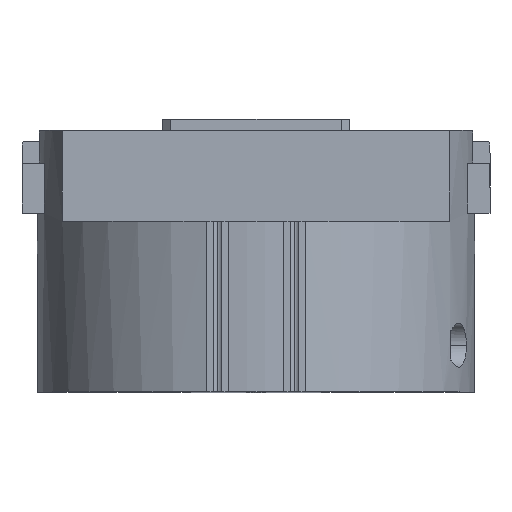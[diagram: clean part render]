
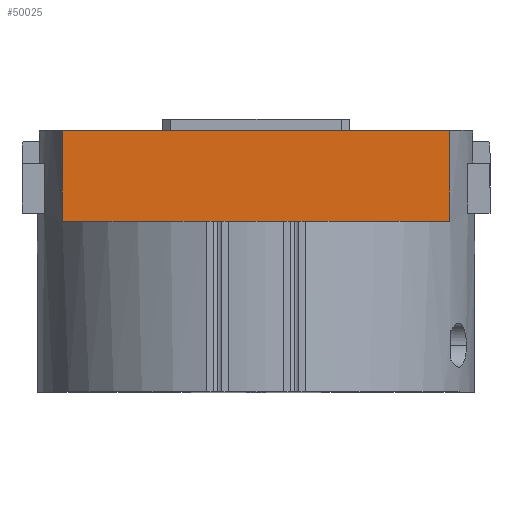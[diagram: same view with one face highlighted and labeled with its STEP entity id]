
A CAD part, top view. The second image highlights one B-rep face of the part: STEP entity #50025.
In plain terms, the highlighted planar face has unit normal (0, 0, 1).
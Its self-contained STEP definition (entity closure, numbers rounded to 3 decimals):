
#5178 = AXIS2_PLACEMENT_3D ( 'NONE', #10931, #33045, #92315 ) ;
#6786 = PLANE ( 'NONE',  #5178 ) ;
#6804 = LINE ( 'NONE', #36291, #39987 ) ;
#8739 = ORIENTED_EDGE ( 'NONE', *, *, #80371, .F. ) ;
#9658 = VERTEX_POINT ( 'NONE', #55431 ) ;
#10931 = CARTESIAN_POINT ( 'NONE',  ( -70.365, 62., 37. ) ) ;
#15722 = LINE ( 'NONE', #88082, #105835 ) ;
#17289 = VERTEX_POINT ( 'NONE', #101143 ) ;
#22342 = DIRECTION ( 'NONE',  ( 1., 0., 0. ) ) ;
#30303 = EDGE_CURVE ( 'NONE', #9658, #17289, #15722, .T. ) ;
#30475 = CARTESIAN_POINT ( 'NONE',  ( 0., 95., 37. ) ) ;
#33045 = DIRECTION ( 'NONE',  ( 0., 0., -1. ) ) ;
#36291 = CARTESIAN_POINT ( 'NONE',  ( 70.365, 95., 37. ) ) ;
#37344 = DIRECTION ( 'NONE',  ( 0., 1., 0. ) ) ;
#39699 = CARTESIAN_POINT ( 'NONE',  ( 70.365, 62., 37. ) ) ;
#39987 = VECTOR ( 'NONE', #44832, 1000. ) ;
#44832 = DIRECTION ( 'NONE',  ( 0., -1., 0. ) ) ;
#47806 = EDGE_CURVE ( 'NONE', #83349, #9658, #65684, .T. ) ;
#50025 = ADVANCED_FACE ( 'NONE', ( #89478 ), #6786, .F. ) ;
#55431 = CARTESIAN_POINT ( 'NONE',  ( -70.365, 62., 37. ) ) ;
#63033 = VECTOR ( 'NONE', #71588, 1000. ) ;
#65684 = LINE ( 'NONE', #104167, #63033 ) ;
#69857 = LINE ( 'NONE', #30475, #87048 ) ;
#69866 = EDGE_LOOP ( 'NONE', ( #97801, #73562, #8739, #80244 ) ) ;
#71588 = DIRECTION ( 'NONE',  ( -1., 0., 0. ) ) ;
#73562 = ORIENTED_EDGE ( 'NONE', *, *, #47806, .F. ) ;
#80244 = ORIENTED_EDGE ( 'NONE', *, *, #106851, .F. ) ;
#80371 = EDGE_CURVE ( 'NONE', #86459, #83349, #6804, .T. ) ;
#83349 = VERTEX_POINT ( 'NONE', #39699 ) ;
#86459 = VERTEX_POINT ( 'NONE', #99099 ) ;
#87048 = VECTOR ( 'NONE', #22342, 1000. ) ;
#88082 = CARTESIAN_POINT ( 'NONE',  ( -70.365, 95., 37. ) ) ;
#89478 = FACE_OUTER_BOUND ( 'NONE', #69866, .T. ) ;
#92315 = DIRECTION ( 'NONE',  ( -1., 0., 0. ) ) ;
#97801 = ORIENTED_EDGE ( 'NONE', *, *, #30303, .F. ) ;
#99099 = CARTESIAN_POINT ( 'NONE',  ( 70.365, 95., 37. ) ) ;
#101143 = CARTESIAN_POINT ( 'NONE',  ( -70.365, 95., 37. ) ) ;
#104167 = CARTESIAN_POINT ( 'NONE',  ( 0., 62., 37. ) ) ;
#105835 = VECTOR ( 'NONE', #37344, 1000. ) ;
#106851 = EDGE_CURVE ( 'NONE', #17289, #86459, #69857, .T. ) ;
